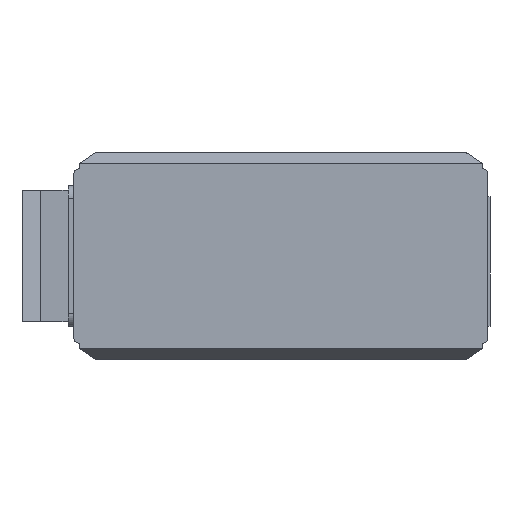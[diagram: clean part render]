
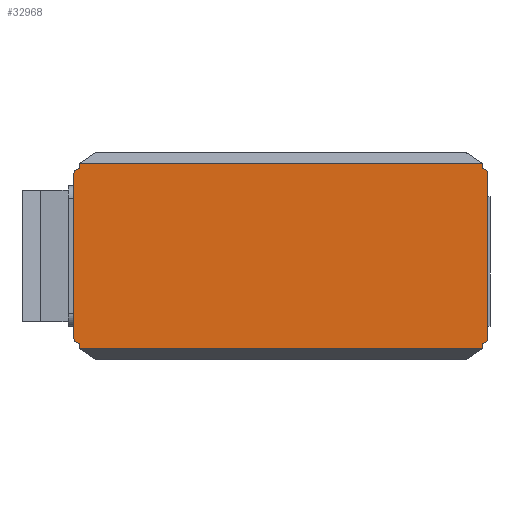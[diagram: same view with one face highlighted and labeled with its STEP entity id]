
A CAD part, left-side view. The second image highlights one B-rep face of the part: STEP entity #32968.
In plain terms, the highlighted planar face has unit normal (-1, 0, 0).
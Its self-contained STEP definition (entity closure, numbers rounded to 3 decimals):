
#5677=DIRECTION('',(0.,0.,-1.));
#5678=VECTOR('',#5677,31.7);
#5679=CARTESIAN_POINT('',(-50.,-40.05,15.85));
#5680=LINE('',#5679,#5678);
#5684=CARTESIAN_POINT('',(-50.,-39.05,-15.85));
#5685=DIRECTION('',(-1.,0.,0.));
#5686=DIRECTION('',(0.,0.,-1.));
#5687=AXIS2_PLACEMENT_3D('',#5684,#5685,#5686);
#5692=DIRECTION('',(0.,1.,0.));
#5693=VECTOR('',#5692,0.05);
#5694=CARTESIAN_POINT('',(-50.,-39.05,-16.85));
#5695=LINE('',#5694,#5693);
#5699=DIRECTION('',(0.,0.,1.));
#5700=VECTOR('',#5699,1.05);
#5701=CARTESIAN_POINT('',(-50.,-39.,-17.9));
#5702=LINE('',#5701,#5700);
#5706=DIRECTION('',(0.,1.,0.));
#5707=VECTOR('',#5706,78.);
#5708=CARTESIAN_POINT('',(-50.,-39.,-17.9));
#5709=LINE('',#5708,#5707);
#5713=DIRECTION('',(0.,0.,1.));
#5714=VECTOR('',#5713,1.05);
#5715=CARTESIAN_POINT('',(-50.,39.,-17.9));
#5716=LINE('',#5715,#5714);
#5720=DIRECTION('',(0.,-1.,0.));
#5721=VECTOR('',#5720,0.05);
#5722=CARTESIAN_POINT('',(-50.,39.05,-16.85));
#5723=LINE('',#5722,#5721);
#5727=CARTESIAN_POINT('',(-50.,39.05,-15.85));
#5728=DIRECTION('',(-1.,0.,0.));
#5729=DIRECTION('',(0.,1.,0.));
#5730=AXIS2_PLACEMENT_3D('',#5727,#5728,#5729);
#5735=DIRECTION('',(0.,0.,1.));
#5736=VECTOR('',#5735,31.7);
#5737=CARTESIAN_POINT('',(-50.,40.05,-15.85));
#5738=LINE('',#5737,#5736);
#5742=CARTESIAN_POINT('',(-50.,39.05,15.85));
#5743=DIRECTION('',(1.,0.,0.));
#5744=DIRECTION('',(0.,1.,0.));
#5745=AXIS2_PLACEMENT_3D('',#5742,#5743,#5744);
#5750=DIRECTION('',(0.,-1.,0.));
#5751=VECTOR('',#5750,0.05);
#5752=CARTESIAN_POINT('',(-50.,39.05,16.85));
#5753=LINE('',#5752,#5751);
#5757=DIRECTION('',(0.,0.,-1.));
#5758=VECTOR('',#5757,1.05);
#5759=CARTESIAN_POINT('',(-50.,39.,17.9));
#5760=LINE('',#5759,#5758);
#5764=DIRECTION('',(0.,1.,0.));
#5765=VECTOR('',#5764,78.);
#5766=CARTESIAN_POINT('',(-50.,-39.,17.9));
#5767=LINE('',#5766,#5765);
#5771=DIRECTION('',(0.,0.,-1.));
#5772=VECTOR('',#5771,1.05);
#5773=CARTESIAN_POINT('',(-50.,-39.,17.9));
#5774=LINE('',#5773,#5772);
#5778=DIRECTION('',(0.,1.,0.));
#5779=VECTOR('',#5778,0.05);
#5780=CARTESIAN_POINT('',(-50.,-39.05,16.85));
#5781=LINE('',#5780,#5779);
#5785=CARTESIAN_POINT('',(-50.,-39.05,15.85));
#5786=DIRECTION('',(1.,0.,0.));
#5787=DIRECTION('',(0.,0.,1.));
#5788=AXIS2_PLACEMENT_3D('',#5785,#5786,#5787);
#24650=CARTESIAN_POINT('',(-50.,39.,17.9));
#24652=VERTEX_POINT('',#24650);
#24653=CARTESIAN_POINT('',(-50.,-39.,17.9));
#24655=VERTEX_POINT('',#24653);
#24657=CARTESIAN_POINT('',(-50.,39.,16.85));
#24658=VERTEX_POINT('',#24657);
#24659=CARTESIAN_POINT('',(-50.,-39.,16.85));
#24660=VERTEX_POINT('',#24659);
#25221=CARTESIAN_POINT('',(-50.,40.05,15.85));
#25222=CARTESIAN_POINT('',(-50.,39.05,16.85));
#25223=VERTEX_POINT('',#25221);
#25224=VERTEX_POINT('',#25222);
#25225=CARTESIAN_POINT('',(-50.,-39.05,16.85));
#25226=CARTESIAN_POINT('',(-50.,-40.05,15.85));
#25227=VERTEX_POINT('',#25225);
#25228=VERTEX_POINT('',#25226);
#25938=CARTESIAN_POINT('',(-50.,39.,-17.9));
#25940=VERTEX_POINT('',#25938);
#25941=CARTESIAN_POINT('',(-50.,-39.,-17.9));
#25943=VERTEX_POINT('',#25941);
#25945=CARTESIAN_POINT('',(-50.,39.,-16.85));
#25946=VERTEX_POINT('',#25945);
#25947=CARTESIAN_POINT('',(-50.,-39.,-16.85));
#25948=VERTEX_POINT('',#25947);
#26509=CARTESIAN_POINT('',(-50.,40.05,-15.85));
#26510=CARTESIAN_POINT('',(-50.,39.05,-16.85));
#26511=VERTEX_POINT('',#26509);
#26512=VERTEX_POINT('',#26510);
#26513=CARTESIAN_POINT('',(-50.,-39.05,-16.85));
#26514=CARTESIAN_POINT('',(-50.,-40.05,-15.85));
#26515=VERTEX_POINT('',#26513);
#26516=VERTEX_POINT('',#26514);
#32934=CARTESIAN_POINT('',(-50.,-40.05,0.));
#32935=DIRECTION('',(1.,0.,0.));
#32936=DIRECTION('',(0.,1.,0.));
#32937=AXIS2_PLACEMENT_3D('',#32934,#32935,#32936);
#32938=PLANE('',#32937);
#32939=ORIENTED_EDGE('',*,*,#28566,.T.);
#32941=ORIENTED_EDGE('',*,*,#32940,.F.);
#32943=ORIENTED_EDGE('',*,*,#32942,.T.);
#32945=ORIENTED_EDGE('',*,*,#32944,.F.);
#32947=ORIENTED_EDGE('',*,*,#32946,.T.);
#32949=ORIENTED_EDGE('',*,*,#32948,.T.);
#32951=ORIENTED_EDGE('',*,*,#32950,.F.);
#32953=ORIENTED_EDGE('',*,*,#32952,.F.);
#32954=ORIENTED_EDGE('',*,*,#28707,.T.);
#32956=ORIENTED_EDGE('',*,*,#32955,.T.);
#32958=ORIENTED_EDGE('',*,*,#32957,.T.);
#32960=ORIENTED_EDGE('',*,*,#32959,.F.);
#32962=ORIENTED_EDGE('',*,*,#32961,.F.);
#32963=ORIENTED_EDGE('',*,*,#28498,.T.);
#32964=ORIENTED_EDGE('',*,*,#28520,.F.);
#32965=ORIENTED_EDGE('',*,*,#28542,.T.);
#32966=EDGE_LOOP('',(#32939,#32941,#32943,#32945,#32947,#32949,#32951,#32953,
#32954,#32956,#32958,#32960,#32962,#32963,#32964,#32965));
#32967=FACE_OUTER_BOUND('',#32966,.F.);
#5688=CIRCLE('',#5687,1.);
#5731=CIRCLE('',#5730,1.);
#5746=CIRCLE('',#5745,1.);
#5789=CIRCLE('',#5788,1.);
#28498=EDGE_CURVE('',#24655,#24660,#5774,.T.);
#28520=EDGE_CURVE('',#25227,#24660,#5781,.T.);
#28542=EDGE_CURVE('',#25227,#25228,#5789,.T.);
#28566=EDGE_CURVE('',#25228,#26516,#5680,.T.);
#28707=EDGE_CURVE('',#26511,#25223,#5738,.T.);
#32940=EDGE_CURVE('',#26515,#26516,#5688,.T.);
#32942=EDGE_CURVE('',#26515,#25948,#5695,.T.);
#32944=EDGE_CURVE('',#25943,#25948,#5702,.T.);
#32946=EDGE_CURVE('',#25943,#25940,#5709,.T.);
#32948=EDGE_CURVE('',#25940,#25946,#5716,.T.);
#32950=EDGE_CURVE('',#26512,#25946,#5723,.T.);
#32952=EDGE_CURVE('',#26511,#26512,#5731,.T.);
#32955=EDGE_CURVE('',#25223,#25224,#5746,.T.);
#32957=EDGE_CURVE('',#25224,#24658,#5753,.T.);
#32959=EDGE_CURVE('',#24652,#24658,#5760,.T.);
#32961=EDGE_CURVE('',#24655,#24652,#5767,.T.);
#32968=ADVANCED_FACE('',(#32967),#32938,.F.);
